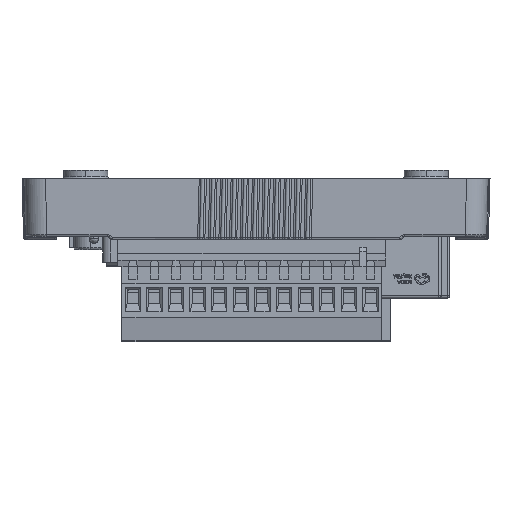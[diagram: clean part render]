
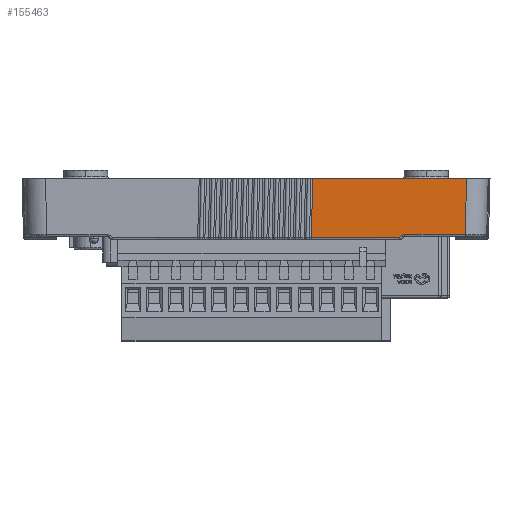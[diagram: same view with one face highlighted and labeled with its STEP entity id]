
A CAD part, left-side view. The second image highlights one B-rep face of the part: STEP entity #155463.
In plain terms, the highlighted planar face has unit normal (-1, 0, -0.026).
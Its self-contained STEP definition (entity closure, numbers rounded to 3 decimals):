
#4711 = CARTESIAN_POINT ( 'NONE',  ( -71.636, 48.5, -5.263 ) ) ;
#14413 = VERTEX_POINT ( 'NONE', #41901 ) ;
#14634 = EDGE_CURVE ( 'NONE', #178583, #170773, #202002, .T. ) ;
#17082 = CARTESIAN_POINT ( 'NONE',  ( -71.649, -34.3, -4.756 ) ) ;
#21890 = DIRECTION ( 'NONE',  ( -1., 0., -0.026 ) ) ;
#38443 = DIRECTION ( 'NONE',  ( -0.026, 0., 1. ) ) ;
#39018 = EDGE_CURVE ( 'NONE', #43065, #178583, #121125, .T. ) ;
#40660 = ORIENTED_EDGE ( 'NONE', *, *, #39018, .T. ) ;
#41690 = CARTESIAN_POINT ( 'NONE',  ( -71.636, -33.793, -5.263 ) ) ;
#41901 = CARTESIAN_POINT ( 'NONE',  ( -71.657, -49.158, -4.463 ) ) ;
#43065 = VERTEX_POINT ( 'NONE', #95133 ) ;
#45000 = EDGE_CURVE ( 'NONE', #76669, #43065, #146127, .T. ) ;
#46550 = VECTOR ( 'NONE', #155130, 1000. ) ;
#49979 = CARTESIAN_POINT ( 'NONE',  ( -71.649, -34.3, -4.756 ) ) ;
#50976 = CARTESIAN_POINT ( 'NONE',  ( -71.656, -34.745, -4.489 ) ) ;
#56019 = CARTESIAN_POINT ( 'NONE',  ( -71.657, -35.007, -4.463 ) ) ;
#63121 = CARTESIAN_POINT ( 'NONE',  ( -72., -13.353, 8.65 ) ) ;
#65154 = CARTESIAN_POINT ( 'NONE',  ( -72., -37.452, 8.65 ) ) ;
#74782 = LINE ( 'NONE', #123210, #93051 ) ;
#76669 = VERTEX_POINT ( 'NONE', #153190 ) ;
#83478 = VECTOR ( 'NONE', #130635, 1000. ) ;
#87300 = CARTESIAN_POINT ( 'NONE',  ( -72., -49.502, 8.65 ) ) ;
#89180 = DIRECTION ( 'NONE',  ( 0., -1., 0. ) ) ;
#93051 = VECTOR ( 'NONE', #89180, 1000. ) ;
#95133 = CARTESIAN_POINT ( 'NONE',  ( -71.636, -33.793, -5.263 ) ) ;
#98704 = CARTESIAN_POINT ( 'NONE',  ( -72., -13.353, 8.65 ) ) ;
#108234 = ORIENTED_EDGE ( 'NONE', *, *, #164919, .T. ) ;
#110632 = CARTESIAN_POINT ( 'NONE',  ( -72., -25.403, 8.65 ) ) ;
#118510 = ORIENTED_EDGE ( 'NONE', *, *, #14634, .T. ) ;
#121125 = LINE ( 'NONE', #41690, #46550 ) ;
#123210 = CARTESIAN_POINT ( 'NONE',  ( -71.657, 48.5, -4.463 ) ) ;
#130635 = DIRECTION ( 'NONE',  ( 0., -1., 0. ) ) ;
#131463 = CARTESIAN_POINT ( 'NONE',  ( -71.651, -34.394, -4.662 ) ) ;
#132743 = LINE ( 'NONE', #181217, #195747 ) ;
#138925 = LINE ( 'NONE', #201899, #176448 ) ;
#144341 = AXIS2_PLACEMENT_3D ( 'NONE', #145791, #21890, #38443 ) ;
#145640 = VERTEX_POINT ( 'NONE', #87300 ) ;
#145791 = CARTESIAN_POINT ( 'NONE',  ( -72., 48.5, 8.65 ) ) ;
#146127 = LINE ( 'NONE', #4711, #83478 ) ;
#147546 = VERTEX_POINT ( 'NONE', #98704 ) ;
#152973 = EDGE_CURVE ( 'NONE', #147546, #76669, #138925, .T. ) ;
#153190 = CARTESIAN_POINT ( 'NONE',  ( -71.636, -12.989, -5.263 ) ) ;
#155130 = DIRECTION ( 'NONE',  ( -0.019, -0.707, 0.707 ) ) ;
#155463 = ADVANCED_FACE ( 'NONE', ( #178757 ), #163342, .T. ) ;
#157121 = EDGE_CURVE ( 'NONE', #170773, #14413, #74782, .T. ) ;
#161451 = CARTESIAN_POINT ( 'NONE',  ( -71.657, -34.873, -4.464 ) ) ;
#162757 = EDGE_CURVE ( 'NONE', #145640, #147546, #184888, .T. ) ;
#163342 = PLANE ( 'NONE',  #144341 ) ;
#164397 = ORIENTED_EDGE ( 'NONE', *, *, #162757, .T. ) ;
#164919 = EDGE_CURVE ( 'NONE', #14413, #145640, #132743, .T. ) ;
#170773 = VERTEX_POINT ( 'NONE', #56019 ) ;
#172441 = ORIENTED_EDGE ( 'NONE', *, *, #157121, .T. ) ;
#176448 = VECTOR ( 'NONE', #186406, 1000. ) ;
#176856 = CARTESIAN_POINT ( 'NONE',  ( -71.653, -34.504, -4.59 ) ) ;
#178583 = VERTEX_POINT ( 'NONE', #17082 ) ;
#178757 = FACE_OUTER_BOUND ( 'NONE', #183667, .T. ) ;
#181217 = CARTESIAN_POINT ( 'NONE',  ( -71.657, -49.158, -4.463 ) ) ;
#183667 = EDGE_LOOP ( 'NONE', ( #164397, #186978, #184392, #40660, #118510, #172441, #108234 ) ) ;
#184392 = ORIENTED_EDGE ( 'NONE', *, *, #45000, .T. ) ;
#184888 = B_SPLINE_CURVE_WITH_KNOTS ( 'NONE', 3,
 ( #191084, #65154, #110632, #63121 ),
 .UNSPECIFIED., .F., .F.,
 ( 4, 4 ),
 ( 0., 1. ),
 .UNSPECIFIED. ) ;
#186406 = DIRECTION ( 'NONE',  ( 0.026, 0.026, -0.999 ) ) ;
#186978 = ORIENTED_EDGE ( 'NONE', *, *, #152973, .T. ) ;
#191084 = CARTESIAN_POINT ( 'NONE',  ( -72., -49.502, 8.65 ) ) ;
#194422 = CARTESIAN_POINT ( 'NONE',  ( -71.657, -35.007, -4.463 ) ) ;
#195722 = DIRECTION ( 'NONE',  ( -0.026, -0.026, 0.999 ) ) ;
#195747 = VECTOR ( 'NONE', #195722, 1000. ) ;
#201899 = CARTESIAN_POINT ( 'NONE',  ( -72., -13.353, 8.65 ) ) ;
#202002 = B_SPLINE_CURVE_WITH_KNOTS ( 'NONE', 3,
 ( #49979, #131463, #176856, #50976, #161451, #194422 ),
 .UNSPECIFIED., .F., .F.,
 ( 4, 2, 4 ),
 ( 0., 0.5, 1. ),
 .UNSPECIFIED. ) ;
